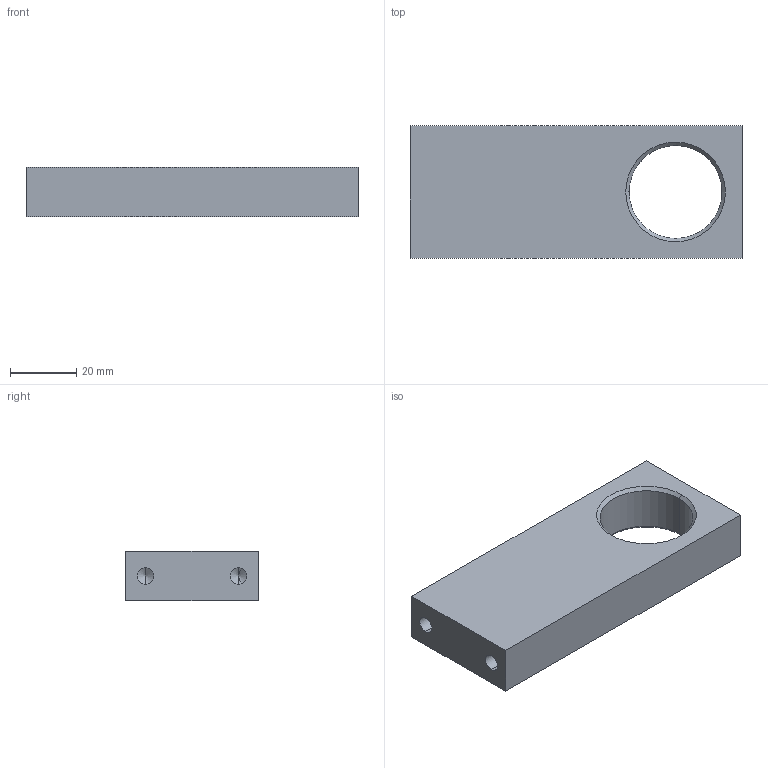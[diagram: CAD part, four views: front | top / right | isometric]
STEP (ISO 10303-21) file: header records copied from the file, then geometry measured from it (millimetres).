
FILE_DESCRIPTION (( 'STEP AP214' ), '1' );
FILE_NAME ('嘋_娃必莞奘臣掭皋2.STEP', '2024-05-07T00:14:53', ( '' ), ( '' ), 'SwSTEP 2.0', 'SolidWorks 2023', '' );
FILE_SCHEMA (( 'AUTOMOTIVE_DESIGN' ));
Length unit declared in the file: millimetre
Products named in the file (1): ④_ﾍﾞｱﾘﾝｸﾞﾊｳｼﾞﾝｸﾞ2
Bounding box: 100 x 40 x 15 mm (x, y, z)
Volume: 49986.4 mm3; surface area: 12728.1 mm2
Topology: 1 solids, 1 shells, 20 faces, 46 edges, 26 vertices
Faces by surface type: cone 8, cylinder 6, plane 6
Entity records: 561 total; most frequent: DIRECTION 100, CARTESIAN_POINT 89, ORIENTED_EDGE 84, EDGE_CURVE 42, AXIS2_PLACEMENT_3D 37, VERTEX_POINT 26, VECTOR 26, LINE 26
